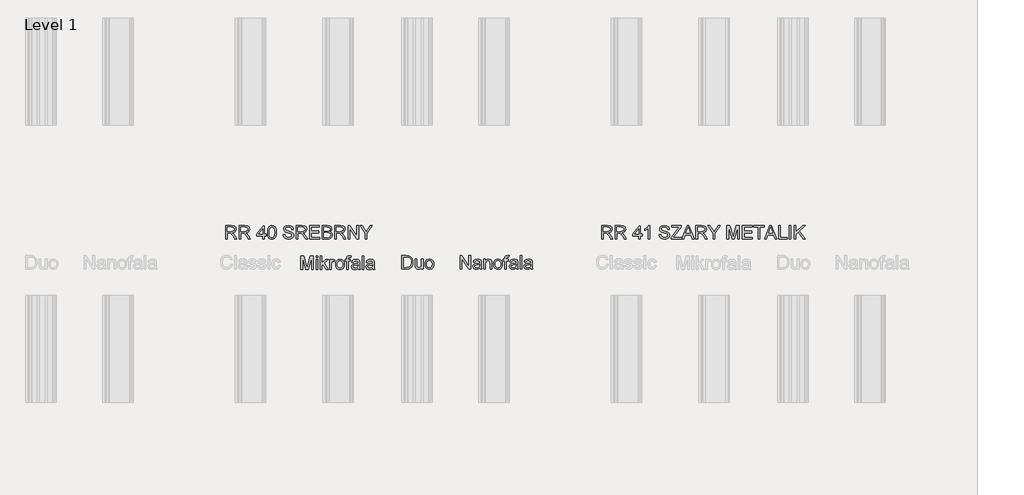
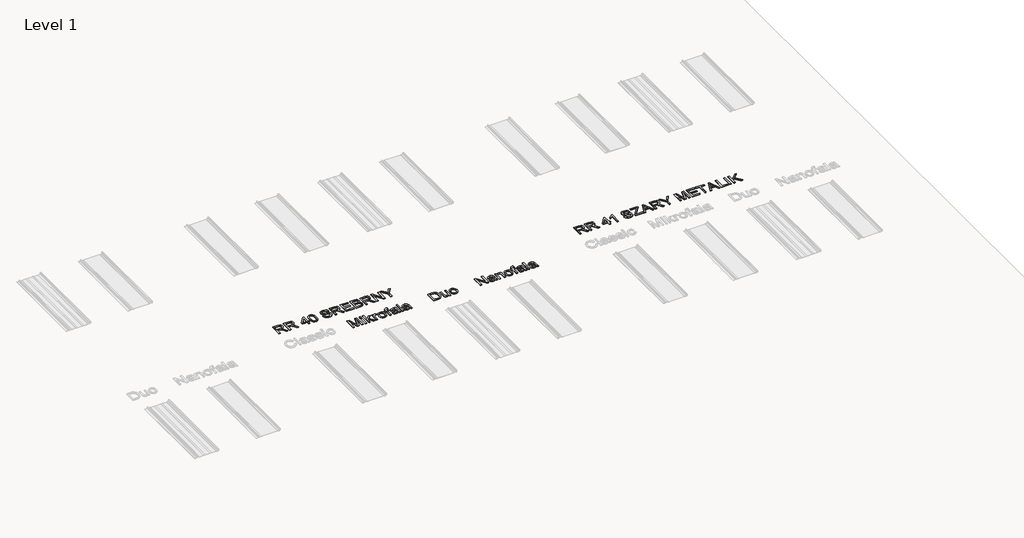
# One storey, part 17 of 24: 5 proxies.
"""IFC4 building model written with IfcOpenShell, lengths in millimetres."""

from ifc_helpers import new_model, si_unit, frame, origin, place, context, project, spatial, polyline, outline, extrude, element, save

model = new_model("IFC4")

# Units and contexts
model_context = context("Model", 3, world=origin())
ifc_project = project(units=[si_unit("LENGTHUNIT", "METRE", prefix="MILLI")], contexts=[model_context])

# Site, building, storey
site = spatial("IfcSite", under=ifc_project)
building = spatial("IfcBuilding", under=site)
storey = spatial("IfcBuildingStorey", under=building, Name="Level 1", Elevation=0.0)

# Proxies
placement = place(None, origin())
element("IfcBuildingElementProxy", 1, Name="150", ObjectType="150", at=placement, inside=storey, context=model_context, shape_type="SweptSolid", body=[
    extrude(outline(polyline([(504.3345041, -1975.281387), (504.3345041, -1824.5969218), (536.6345432, -1824.5969218), (567.5366308, -1930.8044538), (573.7906247, -1952.9877381), (580.5228653, -1928.9650438), (610.8363417, -1824.5969218), (643.2467454, -1824.5969218), (643.2467454, -1975.281387), (624.4111873, -1975.281387), (624.4111873, -1843.4324799), (586.55613, -1975.281387), (561.0619077, -1975.281387), (523.1700622, -1843.4324799), (523.1700622, -1975.281387), (504.3345041, -1975.281387)])), frame((0.0, 0.0, 600.0), z_axis=(0.0, 0.0, 1.0), x_axis=(1.0, 0.0, 0.0)), (0.0, 0.0, 1.0), 10.0),
    extrude(outline(polyline([(673.8545274, -1843.4324799), (673.8545274, -1824.5969218), (692.6900856, -1824.5969218), (692.6900856, -1843.4324799), (673.8545274, -1843.4324799)])), frame((0.0, 0.0, 600.0), z_axis=(0.0, 0.0, 1.0), x_axis=(1.0, 0.0, 0.0)), (0.0, 0.0, 1.0), 10.0),
    extrude(outline(polyline([(673.8545274, -1975.281387), (673.8545274, -1864.6224829), (692.6900856, -1864.6224829), (692.6900856, -1975.281387), (673.8545274, -1975.281387)])), frame((0.0, 0.0, 600.0), z_axis=(0.0, 0.0, 1.0), x_axis=(1.0, 0.0, 0.0)), (0.0, 0.0, 1.0), 10.0),
    extrude(outline(polyline([(720.9434228, -1975.281387), (720.9434228, -1824.5969218), (739.778981, -1824.5969218), (739.778981, -1905.5677489), (782.011834, -1864.6224829), (808.0578793, -1864.6224829), (765.2732032, -1906.0827837), (810.412324, -1975.281387), (788.4129807, -1975.281387), (751.771934, -1919.1793827), (739.778981, -1930.841242), (739.778981, -1975.281387), (720.9434228, -1975.281387)])), frame((0.0, 0.0, 600.0), z_axis=(0.0, 0.0, 1.0), x_axis=(1.0, 0.0, 0.0)), (0.0, 0.0, 1.0), 10.0),
    extrude(outline(polyline([(826.8934374, -1975.281387), (826.8934374, -1864.6224829), (843.3745508, -1864.6224829), (843.3745508, -1880.9932316), (855.0731983, -1865.9100698), (866.8454221, -1862.2680381), (885.7545567, -1868.0805736), (879.4637745, -1884.9663572), (866.2200227, -1881.1035962), (855.5698389, -1884.8192044), (848.7824161, -1895.1199003), (845.7289956, -1917.1192436), (845.7289956, -1975.281387), (826.8934374, -1975.281387)])), frame((0.0, 0.0, 600.0), z_axis=(0.0, 0.0, 1.0), x_axis=(1.0, 0.0, 0.0)), (0.0, 0.0, 1.0), 10.0),
    extrude(outline(polyline([(892.817891, -1919.9519349), (896.8921841, -1893.2712932), (909.1150633, -1874.5185085), (924.2166192, -1865.3306557), (942.2980193, -1862.2680381), (962.0854721, -1865.9974418), (977.8906023, -1877.185653), (988.251079, -1894.9497548), (991.7045713, -1918.4068306), (990.177861, -1937.4355268), (985.5977301, -1951.9208803), (978.097536, -1962.7688007), (967.8106357, -1970.8851972), (955.5923549, -1975.9481731), (942.2980193, -1977.6358318), (922.2714432, -1973.9202236), (906.4847071, -1962.7733992), (896.234595, -1944.6368168), (892.817891, -1919.9519349)]), holes=[polyline([(911.6534491, -1919.9151467), (913.8331499, -1936.9618787), (920.3722524, -1949.1065831), (930.2130958, -1956.376851), (942.2980193, -1958.8002736), (954.3277606, -1956.3630554), (964.1502098, -1949.0514008), (970.6893123, -1936.745748), (972.8690131, -1919.3265355), (970.6755167, -1902.7764443), (964.0950275, -1890.7972868), (954.2587827, -1883.5270189), (942.2980193, -1881.1035962), (930.2130958, -1883.5178218), (920.3722524, -1890.7604986), (913.8331499, -1902.8776118), (911.6534491, -1919.9151467)])]), frame((0.0, 0.0, 600.0), z_axis=(0.0, 0.0, 1.0), x_axis=(1.0, 0.0, 0.0)), (0.0, 0.0, 1.0), 10.0),
    extrude(outline(polyline([(1017.6034637, -1975.281387), (1017.6034637, -1883.458041), (1001.1223503, -1883.458041), (1001.1223503, -1864.6224829), (1017.6034637, -1864.6224829), (1017.6034637, -1853.4756584), (1019.5900265, -1837.7670972), (1029.2285348, -1826.5466964), (1048.2112457, -1822.242477), (1065.3913349, -1824.3026162), (1062.6322199, -1841.960952), (1051.7797011, -1841.0780352), (1039.9155067, -1844.2050321), (1036.4390219, -1855.8668914), (1036.4390219, -1864.6224829), (1057.6290248, -1864.6224829), (1057.6290248, -1883.458041), (1036.4390219, -1883.458041), (1036.4390219, -1975.281387), (1017.6034637, -1975.281387)])), frame((0.0, 0.0, 600.0), z_axis=(0.0, 0.0, 1.0), x_axis=(1.0, 0.0, 0.0)), (0.0, 0.0, 1.0), 10.0),
    extrude(outline(polyline([(1144.7434813, -1961.1547184), (1126.4781402, -1973.9202236), (1106.2998128, -1977.6358318), (1090.5590619, -1975.4009487), (1078.9477864, -1968.6962993), (1071.7878831, -1958.5151651), (1069.4012486, -1945.8508274), (1073.0064922, -1930.9516066), (1082.4794536, -1920.1358759), (1095.6680231, -1913.9554584), (1111.9651955, -1911.1227671), (1144.6331167, -1904.6480439), (1144.7434813, -1900.4541892), (1143.4466972, -1892.0480856), (1139.5563451, -1886.5482498), (1130.8559359, -1882.4647596), (1118.7342242, -1881.1035962), (1099.6779368, -1884.7272339), (1090.5912516, -1897.5847096), (1071.7556934, -1895.2302649), (1079.9042796, -1876.8361651), (1096.3118166, -1866.0572226), (1121.1622454, -1862.2680381), (1143.9893232, -1865.6157643), (1156.8835871, -1874.0218678), (1162.6593344, -1886.8057672), (1163.5790394, -1903.2868806), (1163.5790394, -1926.7209636), (1164.5355326, -1959.4440671), (1168.2879289, -1975.281387), (1149.4523708, -1975.281387), (1144.7434813, -1961.1547184)]), holes=[polyline([(1144.7434813, -1923.4836021), (1114.3564285, -1929.2593494), (1098.1512266, -1932.31277), (1090.8119808, -1937.2791769), (1088.2368068, -1944.5264522), (1093.8470072, -1954.7167835), (1110.3097265, -1958.8002736), (1129.3660139, -1954.2937192), (1141.6532725, -1943.386018), (1144.6331167, -1928.817891), (1144.7434813, -1923.4836021)])]), frame((0.0, 0.0, 600.0), z_axis=(0.0, 0.0, 1.0), x_axis=(1.0, 0.0, 0.0)), (0.0, 0.0, 1.0), 10.0),
    extrude(outline(polyline([(1189.4779319, -1975.281387), (1189.4779319, -1824.5969218), (1208.31349, -1824.5969218), (1208.31349, -1975.281387), (1189.4779319, -1975.281387)])), frame((0.0, 0.0, 600.0), z_axis=(0.0, 0.0, 1.0), x_axis=(1.0, 0.0, 0.0)), (0.0, 0.0, 1.0), 10.0),
    extrude(outline(polyline([(1307.2001703, -1961.1547184), (1288.9348293, -1973.9202236), (1268.7565018, -1977.6358318), (1253.015751, -1975.4009487), (1241.4044755, -1968.6962993), (1234.2445722, -1958.5151651), (1231.8579377, -1945.8508274), (1235.4631813, -1930.9516066), (1244.9361426, -1920.1358759), (1258.1247122, -1913.9554584), (1274.4218846, -1911.1227671), (1307.0898057, -1904.6480439), (1307.2001703, -1900.4541892), (1305.9033863, -1892.0480856), (1302.0130342, -1886.5482498), (1293.312625, -1882.4647596), (1281.1909133, -1881.1035962), (1262.1346259, -1884.7272339), (1253.0479406, -1897.5847096), (1234.2123825, -1895.2302649), (1242.3609687, -1876.8361651), (1258.7685057, -1866.0572226), (1283.6189344, -1862.2680381), (1306.4460122, -1865.6157643), (1319.3402762, -1874.0218678), (1325.1160235, -1886.8057672), (1326.0357285, -1903.2868806), (1326.0357285, -1926.7209636), (1326.9922217, -1959.4440671), (1330.744618, -1975.281387), (1311.9090599, -1975.281387), (1307.2001703, -1961.1547184)]), holes=[polyline([(1307.2001703, -1923.4836021), (1276.8131175, -1929.2593494), (1260.6079156, -1932.31277), (1253.2686698, -1937.2791769), (1250.6934959, -1944.5264522), (1256.3036963, -1954.7167835), (1272.7664156, -1958.8002736), (1291.8227029, -1954.2937192), (1304.1099616, -1943.386018), (1307.0898057, -1928.817891), (1307.2001703, -1923.4836021)])]), frame((0.0, 0.0, 600.0), z_axis=(0.0, 0.0, 1.0), x_axis=(1.0, 0.0, 0.0)), (0.0, 0.0, 1.0), 10.0),
])
element("IfcBuildingElementProxy", 2, Name="150", ObjectType="150", at=placement, inside=storey, context=model_context, shape_type="SweptSolid", body=[
    extrude(outline(polyline([(1632.4192925, -1972.1592468), (1632.4192925, -1821.4747816), (1684.4010184, -1821.4747816), (1711.2931923, -1823.6452853), (1733.4396884, -1834.4242278), (1743.8599459, -1845.902146), (1751.2819651, -1860.1759675), (1755.7241402, -1876.9697805), (1757.2048653, -1896.0076738), (1753.1949515, -1926.4131207), (1742.8942557, -1948.3572817), (1729.135469, -1962.0240978), (1711.1276454, -1969.5840728), (1686.902616, -1972.1592468), (1632.4192925, -1972.1592468)]), holes=[polyline([(1651.2548507, -1953.3236886), (1684.5849594, -1953.3236886), (1708.8283829, -1950.6013619), (1722.8078987, -1942.9126282), (1734.2674229, -1924.2058287), (1738.3693071, -1895.7133682), (1736.3597517, -1875.1855529), (1730.3310855, -1860.0288147), (1721.4237427, -1849.6177542), (1710.7781575, -1843.3269721), (1684.0699246, -1840.3103397), (1651.2548507, -1840.3103397), (1651.2548507, -1953.3236886)])]), frame((0.0, 0.0, 600.0), z_axis=(0.0, 0.0, 1.0), x_axis=(1.0, 0.0, 0.0)), (0.0, 0.0, 1.0), 10.0),
    extrude(outline(polyline([(1851.382656, -1972.1592468), (1851.382656, -1953.1397476), (1836.630588, -1969.1702056), (1817.3903597, -1974.5136916), (1799.6768416, -1970.7612952), (1787.4631594, -1961.3435161), (1781.8529589, -1947.4743649), (1780.749313, -1929.9631819), (1780.749313, -1861.5003426), (1799.5848711, -1861.5003426), (1799.5848711, -1921.0972259), (1800.7253053, -1940.300666), (1808.1749157, -1951.5762492), (1822.2096138, -1955.6781334), (1837.9365691, -1951.4842787), (1848.3292355, -1940.0615427), (1851.382656, -1919.0738749), (1851.382656, -1861.5003426), (1870.2182142, -1861.5003426), (1870.2182142, -1972.1592468), (1851.382656, -1972.1592468)])), frame((0.0, 0.0, 600.0), z_axis=(0.0, 0.0, 1.0), x_axis=(1.0, 0.0, 0.0)), (0.0, 0.0, 1.0), 10.0),
    extrude(outline(polyline([(1891.4082171, -1916.8297947), (1895.4825102, -1890.149153), (1907.7053895, -1871.3963683), (1922.8069454, -1862.2085155), (1940.8883455, -1859.1458979), (1960.6757983, -1862.8753016), (1976.4809285, -1874.0635128), (1986.8414052, -1891.8276146), (1990.2948974, -1915.2846903), (1988.7681871, -1934.3133865), (1984.1880563, -1948.7987401), (1976.6878621, -1959.6466604), (1966.4009618, -1967.7630569), (1954.1826811, -1972.8260329), (1940.8883455, -1974.5136916), (1920.8617693, -1970.7980834), (1905.0750332, -1959.651259), (1894.8249211, -1941.5146766), (1891.4082171, -1916.8297947)]), holes=[polyline([(1910.2437753, -1916.7930065), (1912.4234761, -1933.8397385), (1918.9625785, -1945.9844428), (1928.8034219, -1953.2547108), (1940.8883455, -1955.6781334), (1952.9180867, -1953.2409152), (1962.740536, -1945.9292605), (1969.2796384, -1933.6236078), (1971.4593393, -1916.2043953), (1969.2658429, -1899.6543041), (1962.6853537, -1887.6751466), (1952.8491088, -1880.4048787), (1940.8883455, -1877.981456), (1928.8034219, -1880.3956816), (1918.9625785, -1887.6383584), (1912.4234761, -1899.7554716), (1910.2437753, -1916.7930065)])]), frame((0.0, 0.0, 600.0), z_axis=(0.0, 0.0, 1.0), x_axis=(1.0, 0.0, 0.0)), (0.0, 0.0, 1.0), 10.0),
])
element("IfcBuildingElementProxy", 3, Name="150", ObjectType="150", at=placement, inside=storey, context=model_context, shape_type="SweptSolid", body=[
    extrude(outline(polyline([(2283.2193428, -1972.1592468), (2283.2193428, -1821.4747816), (2303.3792761, -1821.4747816), (2382.1060231, -1940.852489), (2382.1060231, -1821.4747816), (2400.9415812, -1821.4747816), (2400.9415812, -1972.1592468), (2380.7816479, -1972.1592468), (2302.0549009, -1852.7447512), (2302.0549009, -1972.1592468), (2283.2193428, -1972.1592468)])), frame((0.0, 0.0, 600.0), z_axis=(0.0, 0.0, 1.0), x_axis=(1.0, 0.0, 0.0)), (0.0, 0.0, 1.0), 10.0),
    extrude(outline(polyline([(2502.1827063, -1958.0325782), (2483.9173653, -1970.7980834), (2463.7390378, -1974.5136916), (2447.998287, -1972.2788084), (2436.3870115, -1965.5741591), (2429.2271081, -1955.3930249), (2426.8404737, -1942.7286872), (2430.4457173, -1927.8294664), (2439.9186786, -1917.0137357), (2453.1072482, -1910.8333182), (2469.4044205, -1908.0006268), (2502.0723417, -1901.5259037), (2502.1827063, -1897.332049), (2500.8859223, -1888.9259454), (2496.9955702, -1883.4261096), (2488.295161, -1879.3426194), (2476.1734493, -1877.981456), (2457.1171619, -1881.6050937), (2448.0304766, -1894.4625694), (2429.1949185, -1892.1081246), (2437.3435047, -1873.7140249), (2453.7510417, -1862.9350824), (2478.6014704, -1859.1458979), (2501.4285482, -1862.493624), (2514.3228122, -1870.8997276), (2520.0985595, -1883.683627), (2521.0182645, -1900.1647403), (2521.0182645, -1923.5988234), (2521.9747577, -1956.3219269), (2525.727154, -1972.1592468), (2506.8915959, -1972.1592468), (2502.1827063, -1958.0325782)]), holes=[polyline([(2502.1827063, -1920.3614619), (2471.7956535, -1926.1372092), (2455.5904516, -1929.1906298), (2448.2512058, -1934.1570367), (2445.6760319, -1941.404312), (2451.2862323, -1951.5946433), (2467.7489516, -1955.6781334), (2486.8052389, -1951.171579), (2499.0924976, -1940.2638778), (2502.0723417, -1925.6957508), (2502.1827063, -1920.3614619)])]), frame((0.0, 0.0, 600.0), z_axis=(0.0, 0.0, 1.0), x_axis=(1.0, 0.0, 0.0)), (0.0, 0.0, 1.0), 10.0),
    extrude(outline(polyline([(2546.9171569, -1972.1592468), (2546.9171569, -1861.5003426), (2565.7527151, -1861.5003426), (2565.7527151, -1876.9513864), (2580.1552952, -1863.59727), (2599.8185878, -1859.1458979), (2617.6056823, -1862.7327473), (2629.7457881, -1872.1505264), (2635.3927768, -1886.0012835), (2636.3860582, -1904.2114423), (2636.3860582, -1972.1592468), (2617.5505, -1972.1592468), (2617.5505, -1906.749828), (2615.3799962, -1890.0847737), (2607.7096566, -1881.2739999), (2594.7786045, -1877.981456), (2583.7467432, -1879.8300631), (2574.3427597, -1885.3758841), (2567.9002262, -1896.0904472), (2565.7527151, -1913.4452804), (2565.7527151, -1972.1592468), (2546.9171569, -1972.1592468)])), frame((0.0, 0.0, 600.0), z_axis=(0.0, 0.0, 1.0), x_axis=(1.0, 0.0, 0.0)), (0.0, 0.0, 1.0), 10.0),
    extrude(outline(polyline([(2657.5760611, -1916.8297947), (2661.6503542, -1890.149153), (2673.8732335, -1871.3963683), (2688.9747894, -1862.2085155), (2707.0561894, -1859.1458979), (2726.8436422, -1862.8753016), (2742.6487725, -1874.0635128), (2753.0092492, -1891.8276146), (2756.4627414, -1915.2846903), (2754.9360311, -1934.3133865), (2750.3559003, -1948.7987401), (2742.8557061, -1959.6466604), (2732.5688058, -1967.7630569), (2720.350525, -1972.8260329), (2707.0561894, -1974.5136916), (2687.0296133, -1970.7980834), (2671.2428772, -1959.651259), (2660.9927651, -1941.5146766), (2657.5760611, -1916.8297947)]), holes=[polyline([(2676.4116192, -1916.7930065), (2678.5913201, -1933.8397385), (2685.1304225, -1945.9844428), (2694.9712659, -1953.2547108), (2707.0561894, -1955.6781334), (2719.0859307, -1953.2409152), (2728.9083799, -1945.9292605), (2735.4474824, -1933.6236078), (2737.6271832, -1916.2043953), (2735.4336868, -1899.6543041), (2728.8531976, -1887.6751466), (2719.0169528, -1880.4048787), (2707.0561894, -1877.981456), (2694.9712659, -1880.3956816), (2685.1304225, -1887.6383584), (2678.5913201, -1899.7554716), (2676.4116192, -1916.7930065)])]), frame((0.0, 0.0, 600.0), z_axis=(0.0, 0.0, 1.0), x_axis=(1.0, 0.0, 0.0)), (0.0, 0.0, 1.0), 10.0),
    extrude(outline(polyline([(2782.3616338, -1972.1592468), (2782.3616338, -1880.3359008), (2765.8805205, -1880.3359008), (2765.8805205, -1861.5003426), (2782.3616338, -1861.5003426), (2782.3616338, -1850.3535182), (2784.3481966, -1834.644957), (2793.9867049, -1823.4245561), (2812.9694158, -1819.1203368), (2830.149505, -1821.180476), (2827.3903901, -1838.8388117), (2816.5378712, -1837.955895), (2804.6736769, -1841.0828919), (2801.197192, -1852.7447512), (2801.197192, -1861.5003426), (2822.3871949, -1861.5003426), (2822.3871949, -1880.3359008), (2801.197192, -1880.3359008), (2801.197192, -1972.1592468), (2782.3616338, -1972.1592468)])), frame((0.0, 0.0, 600.0), z_axis=(0.0, 0.0, 1.0), x_axis=(1.0, 0.0, 0.0)), (0.0, 0.0, 1.0), 10.0),
    extrude(outline(polyline([(2909.5016514, -1958.0325782), (2891.2363103, -1970.7980834), (2871.0579829, -1974.5136916), (2855.317232, -1972.2788084), (2843.7059565, -1965.5741591), (2836.5460532, -1955.3930249), (2834.1594188, -1942.7286872), (2837.7646623, -1927.8294664), (2847.2376237, -1917.0137357), (2860.4261932, -1910.8333182), (2876.7233656, -1908.0006268), (2909.3912868, -1901.5259037), (2909.5016514, -1897.332049), (2908.2048673, -1888.9259454), (2904.3145152, -1883.4261096), (2895.6141061, -1879.3426194), (2883.4923943, -1877.981456), (2864.436107, -1881.6050937), (2855.3494217, -1894.4625694), (2836.5138635, -1892.1081246), (2844.6624497, -1873.7140249), (2861.0699867, -1862.9350824), (2885.9204155, -1859.1458979), (2908.7474933, -1862.493624), (2921.6417572, -1870.8997276), (2927.4175045, -1883.683627), (2928.3372095, -1900.1647403), (2928.3372095, -1923.5988234), (2929.2937027, -1956.3219269), (2933.0460991, -1972.1592468), (2914.2105409, -1972.1592468), (2909.5016514, -1958.0325782)]), holes=[polyline([(2909.5016514, -1920.3614619), (2879.1145986, -1926.1372092), (2862.9093967, -1929.1906298), (2855.5701509, -1934.1570367), (2852.9949769, -1941.404312), (2858.6051773, -1951.5946433), (2875.0678966, -1955.6781334), (2894.124184, -1951.171579), (2906.4114426, -1940.2638778), (2909.3912868, -1925.6957508), (2909.5016514, -1920.3614619)])]), frame((0.0, 0.0, 600.0), z_axis=(0.0, 0.0, 1.0), x_axis=(1.0, 0.0, 0.0)), (0.0, 0.0, 1.0), 10.0),
    extrude(outline(polyline([(2954.236102, -1972.1592468), (2954.236102, -1821.4747816), (2973.0716601, -1821.4747816), (2973.0716601, -1972.1592468), (2954.236102, -1972.1592468)])), frame((0.0, 0.0, 600.0), z_axis=(0.0, 0.0, 1.0), x_axis=(1.0, 0.0, 0.0)), (0.0, 0.0, 1.0), 10.0),
    extrude(outline(polyline([(3071.9583404, -1958.0325782), (3053.6929994, -1970.7980834), (3033.514672, -1974.5136916), (3017.7739211, -1972.2788084), (3006.1626456, -1965.5741591), (2999.0027423, -1955.3930249), (2996.6161078, -1942.7286872), (3000.2213514, -1927.8294664), (3009.6943128, -1917.0137357), (3022.8828823, -1910.8333182), (3039.1800547, -1908.0006268), (3071.8479758, -1901.5259037), (3071.9583404, -1897.332049), (3070.6615564, -1888.9259454), (3066.7712043, -1883.4261096), (3058.0707951, -1879.3426194), (3045.9490834, -1877.981456), (3026.892796, -1881.6050937), (3017.8061108, -1894.4625694), (2998.9705526, -1892.1081246), (3007.1191388, -1873.7140249), (3023.5266758, -1862.9350824), (3048.3771046, -1859.1458979), (3071.2041824, -1862.493624), (3084.0984463, -1870.8997276), (3089.8741936, -1883.683627), (3090.7938986, -1900.1647403), (3090.7938986, -1923.5988234), (3091.7503918, -1956.3219269), (3095.5027881, -1972.1592468), (3076.66723, -1972.1592468), (3071.9583404, -1958.0325782)]), holes=[polyline([(3071.9583404, -1920.3614619), (3041.5712876, -1926.1372092), (3025.3660858, -1929.1906298), (3018.02684, -1934.1570367), (3015.451666, -1941.404312), (3021.0618664, -1951.5946433), (3037.5245857, -1955.6781334), (3056.580873, -1951.171579), (3068.8681317, -1940.2638778), (3071.8479758, -1925.6957508), (3071.9583404, -1920.3614619)])]), frame((0.0, 0.0, 600.0), z_axis=(0.0, 0.0, 1.0), x_axis=(1.0, 0.0, 0.0)), (0.0, 0.0, 1.0), 10.0),
])
element("IfcBuildingElementProxy", 4, Name="150 Blue", ObjectType="150 Blue", at=placement, inside=storey, context=model_context, shape_type="SweptSolid", body=[
    extrude(outline(polyline([(-336.4118342, -1635.6514112), (-336.4118342, -1484.966946), (-271.4806621, -1484.966946), (-241.3327325, -1489.032042), (-232.0529092, -1494.6606365), (-224.8516192, -1503.416228), (-220.2301016, -1514.2733454), (-218.6895957, -1526.2065176), (-221.2417771, -1541.0505561), (-228.8983211, -1553.3562089), (-241.8891541, -1562.3785148), (-260.4442022, -1567.3725129), (-249.7388361, -1575.4291286), (-234.4717333, -1594.8165097), (-209.3453931, -1635.6514112), (-231.2343718, -1635.6514112), (-250.8424821, -1604.4182298), (-265.0059389, -1583.7432617), (-274.9571469, -1573.9759947), (-283.9150735, -1570.3891452), (-294.8411687, -1569.7269577), (-317.576276, -1569.7269577), (-317.576276, -1635.6514112), (-336.4118342, -1635.6514112)]), holes=[polyline([(-317.576276, -1550.8913995), (-275.4169994, -1550.8913995), (-253.9142968, -1548.224255), (-241.7006145, -1539.6893927), (-237.5251539, -1526.9054934), (-239.5163152, -1517.7176406), (-245.4897991, -1510.3140154), (-255.7675023, -1505.4303819), (-270.6713217, -1503.8025041), (-317.576276, -1503.8025041), (-317.576276, -1550.8913995)])]), frame((0.0, 0.0, 600.0), z_axis=(0.0, 0.0, 1.0), x_axis=(1.0, 0.0, 0.0)), (0.0, 0.0, 1.0), 10.0),
    extrude(outline(polyline([(-185.727369, -1635.6514112), (-185.727369, -1484.966946), (-120.7961968, -1484.966946), (-90.6482673, -1489.032042), (-81.368444, -1494.6606365), (-74.1671539, -1503.416228), (-69.5456364, -1514.2733454), (-68.0051305, -1526.2065176), (-70.5573119, -1541.0505561), (-78.2138559, -1553.3562089), (-91.2046888, -1562.3785148), (-109.759737, -1567.3725129), (-99.0543709, -1575.4291286), (-83.7872681, -1594.8165097), (-58.6609278, -1635.6514112), (-80.5499066, -1635.6514112), (-100.1580169, -1604.4182298), (-114.3214737, -1583.7432617), (-124.2726817, -1573.9759947), (-133.2306083, -1570.3891452), (-144.1567035, -1569.7269577), (-166.8918108, -1569.7269577), (-166.8918108, -1635.6514112), (-185.727369, -1635.6514112)]), holes=[polyline([(-166.8918108, -1550.8913995), (-124.7325342, -1550.8913995), (-103.2298316, -1548.224255), (-91.0161493, -1539.6893927), (-86.8406887, -1526.9054934), (-88.83185, -1517.7176406), (-94.8053339, -1510.3140154), (-105.0830371, -1505.4303819), (-119.9868564, -1503.8025041), (-166.8918108, -1503.8025041), (-166.8918108, -1550.8913995)])]), frame((0.0, 0.0, 600.0), z_axis=(0.0, 0.0, 1.0), x_axis=(1.0, 0.0, 0.0)), (0.0, 0.0, 1.0), 10.0),
    extrude(outline(polyline([(77.9704452, -1635.6514112), (77.9704452, -1600.3347397), (9.6915469, -1600.3347397), (9.6915469, -1581.4991815), (82.6793347, -1487.3213907), (96.8060033, -1487.3213907), (96.8060033, -1581.4991815), (115.6415615, -1581.4991815), (115.6415615, -1600.3347397), (96.8060033, -1600.3347397), (96.8060033, -1635.6514112), (77.9704452, -1635.6514112)]), holes=[polyline([(77.9704452, -1581.4991815), (77.9704452, -1523.3002499), (32.8681126, -1581.4991815), (77.9704452, -1581.4991815)])]), frame((0.0, 0.0, 600.0), z_axis=(0.0, 0.0, 1.0), x_axis=(1.0, 0.0, 0.0)), (0.0, 0.0, 1.0), 10.0),
    extrude(outline(polyline([(132.1226749, -1561.5231892), (133.5068309, -1537.4039259), (137.6592989, -1518.168296), (144.5386922, -1503.5219941), (154.1036241, -1493.1707145), (166.4230724, -1487.0178881), (181.566015, -1484.966946), (203.5653583, -1489.8229883), (218.7588847, -1503.8208982), (227.5880526, -1526.1145471), (231.0093552, -1561.5231892), (229.6389947, -1585.5044967), (225.5279134, -1604.6941413), (218.6899068, -1619.3542388), (209.1387705, -1629.7469052), (196.7917311, -1635.9411183), (181.566015, -1638.005856), (161.9946929, -1634.4190065), (147.1322603, -1623.6584581), (135.8750712, -1598.1734329), (132.1226749, -1561.5231892)]), holes=[polyline([(150.958233, -1561.486401), (153.165525, -1591.1146971), (159.7874009, -1608.2625966), (169.6466384, -1616.4433725), (181.566015, -1619.1702978), (193.4853917, -1616.4341755), (203.3446291, -1608.2258084), (209.966505, -1591.0687119), (212.173797, -1561.486401), (210.0400814, -1532.5248909), (203.6389347, -1515.2436342), (193.7980913, -1506.6627866), (181.3452858, -1503.8025041), (169.5546679, -1506.3224958), (160.0817065, -1513.8824708), (153.2391014, -1532.2397823), (150.958233, -1561.486401)])]), frame((0.0, 0.0, 600.0), z_axis=(0.0, 0.0, 1.0), x_axis=(1.0, 0.0, 0.0)), (0.0, 0.0, 1.0), 10.0),
    extrude(outline(polyline([(306.3515878, -1583.8536263), (325.1871459, -1583.8536263), (331.2571988, -1602.7075785), (346.0828432, -1614.6269552), (368.6707978, -1619.1702978), (388.3524845, -1615.7306011), (401.0628074, -1606.2760339), (405.2382681, -1593.6392873), (402.1112711, -1581.8854576), (389.3089777, -1573.3322012), (361.8833749, -1566.1401082), (332.3608448, -1556.8510878), (316.3395839, -1542.8347838), (311.0604773, -1524.1095903), (312.6929537, -1513.0777289), (317.5903827, -1502.7908286), (325.6240058, -1494.0720253), (336.6650642, -1487.744455), (364.5873076, -1482.6125012), (394.3857492, -1487.9835783), (405.8084852, -1494.6146513), (414.251377, -1503.7657159), (419.5948629, -1514.8665551), (421.7193815, -1527.3469518), (402.8838233, -1527.3469518), (399.4257326, -1516.1081569), (392.2152454, -1507.9963589), (380.9488593, -1503.0851342), (365.3230716, -1501.4480593), (349.3294019, -1503.0667401), (338.3573214, -1507.9227825), (332.0113569, -1515.0688902), (329.8960355, -1523.5577673), (331.3951546, -1530.7958455), (335.892512, -1536.6175781), (366.6474468, -1547.1390031), (399.9775555, -1556.5935704), (410.7151113, -1563.4269785), (418.2061084, -1571.8606732), (422.6068968, -1581.8026841), (424.0738262, -1593.1610407), (422.3861676, -1604.7723162), (417.3231916, -1615.6938129), (409.091832, -1625.0931979), (397.8990223, -1632.1381381), (384.4391398, -1636.5389265), (369.4065617, -1638.005856), (350.9526812, -1636.4239634), (335.7637533, -1631.6782856), (323.6650342, -1623.7504286), (314.4817799, -1612.6219983), (308.5864709, -1599.0655468), (306.3515878, -1583.8536263)])), frame((0.0, 0.0, 600.0), z_axis=(0.0, 0.0, 1.0), x_axis=(1.0, 0.0, 0.0)), (0.0, 0.0, 1.0), 10.0),
    extrude(outline(polyline([(452.3271635, -1635.6514112), (452.3271635, -1484.966946), (517.2583356, -1484.966946), (547.4062651, -1489.032042), (556.6860884, -1494.6606365), (563.8873785, -1503.416228), (568.5088961, -1514.2733454), (570.0494019, -1526.2065176), (567.4972206, -1541.0505561), (559.8406765, -1553.3562089), (546.8498436, -1562.3785148), (528.2947955, -1567.3725129), (539.0001615, -1575.4291286), (554.2672643, -1594.8165097), (579.3936046, -1635.6514112), (557.5046259, -1635.6514112), (537.8965155, -1604.4182298), (523.7330587, -1583.7432617), (513.7818508, -1573.9759947), (504.8239242, -1570.3891452), (493.8978289, -1569.7269577), (471.1627216, -1569.7269577), (471.1627216, -1635.6514112), (452.3271635, -1635.6514112)]), holes=[polyline([(471.1627216, -1550.8913995), (513.3219983, -1550.8913995), (534.8247009, -1548.224255), (547.0383831, -1539.6893927), (551.2138438, -1526.9054934), (549.2226825, -1517.7176406), (543.2491986, -1510.3140154), (532.9714953, -1505.4303819), (518.067676, -1503.8025041), (471.1627216, -1503.8025041), (471.1627216, -1550.8913995)])]), frame((0.0, 0.0, 600.0), z_axis=(0.0, 0.0, 1.0), x_axis=(1.0, 0.0, 0.0)), (0.0, 0.0, 1.0), 10.0),
    extrude(outline(polyline([(603.0116287, -1635.6514112), (603.0116287, -1484.966946), (711.3160881, -1484.966946), (711.3160881, -1503.8025041), (621.8471868, -1503.8025041), (621.8471868, -1548.5369547), (706.6071985, -1548.5369547), (706.6071985, -1567.3725129), (621.8471868, -1567.3725129), (621.8471868, -1616.815853), (713.6705328, -1616.815853), (713.6705328, -1635.6514112), (603.0116287, -1635.6514112)])), frame((0.0, 0.0, 600.0), z_axis=(0.0, 0.0, 1.0), x_axis=(1.0, 0.0, 0.0)), (0.0, 0.0, 1.0), 10.0),
    extrude(outline(polyline([(741.9238701, -1635.6514112), (741.9238701, -1484.966946), (799.4238259, -1484.966946), (827.5851926, -1489.399924), (837.048957, -1495.02392), (844.2134588, -1503.0299519), (850.2283294, -1522.3069685), (845.169952, -1539.9101219), (829.8844551, -1553.2458443), (840.5576315, -1558.8192565), (848.4441018, -1567.2989365), (853.3139397, -1578.1238642), (854.937219, -1590.7330196), (850.5042409, -1610.9849234), (839.5229634, -1625.4058976), (823.1338205, -1633.0578431), (798.9823675, -1635.6514112), (741.9238701, -1635.6514112)]), holes=[polyline([(760.7594282, -1546.18251), (795.1563948, -1546.18251), (815.2427517, -1544.5638292), (827.3276752, -1537.5924654), (831.3927713, -1525.3236008), (827.6035867, -1513.0363422), (816.7510679, -1505.7706728), (792.5444326, -1503.8025041), (760.7594282, -1503.8025041), (760.7594282, -1546.18251)]), polyline([(760.7594282, -1616.815853), (799.3870377, -1616.815853), (813.3665535, -1616.080089), (825.1939597, -1611.9782048), (833.0298462, -1603.6088894), (836.1016608, -1590.9169606), (832.4964173, -1576.2752572), (820.8161639, -1567.5380598), (797.5476277, -1565.0180681), (760.7594282, -1565.0180681), (760.7594282, -1616.815853)])]), frame((0.0, 0.0, 600.0), z_axis=(0.0, 0.0, 1.0), x_axis=(1.0, 0.0, 0.0)), (0.0, 0.0, 1.0), 10.0),
    extrude(outline(polyline([(880.8361114, -1635.6514112), (880.8361114, -1484.966946), (945.7672836, -1484.966946), (975.9152131, -1489.032042), (985.1950364, -1494.6606365), (992.3963265, -1503.416228), (997.017844, -1514.2733454), (998.5583499, -1526.2065176), (996.0061686, -1541.0505561), (988.3496245, -1553.3562089), (975.3587916, -1562.3785148), (956.8037434, -1567.3725129), (967.5091095, -1575.4291286), (982.7762123, -1594.8165097), (1007.9025526, -1635.6514112), (986.0135739, -1635.6514112), (966.4054635, -1604.4182298), (952.2420067, -1583.7432617), (942.2907987, -1573.9759947), (933.3328722, -1570.3891452), (922.4067769, -1569.7269577), (899.6716696, -1569.7269577), (899.6716696, -1635.6514112), (880.8361114, -1635.6514112)]), holes=[polyline([(899.6716696, -1550.8913995), (941.8309462, -1550.8913995), (963.3336489, -1548.224255), (975.5473311, -1539.6893927), (979.7227917, -1526.9054934), (977.7316304, -1517.7176406), (971.7581465, -1510.3140154), (961.4804433, -1505.4303819), (946.576624, -1503.8025041), (899.6716696, -1503.8025041), (899.6716696, -1550.8913995)])]), frame((0.0, 0.0, 600.0), z_axis=(0.0, 0.0, 1.0), x_axis=(1.0, 0.0, 0.0)), (0.0, 0.0, 1.0), 10.0),
    extrude(outline(polyline([(1031.5205767, -1635.6514112), (1031.5205767, -1484.966946), (1051.68051, -1484.966946), (1130.407257, -1604.3446534), (1130.407257, -1484.966946), (1149.2428151, -1484.966946), (1149.2428151, -1635.6514112), (1129.0828818, -1635.6514112), (1050.3561348, -1516.2369156), (1050.3561348, -1635.6514112), (1031.5205767, -1635.6514112)])), frame((0.0, 0.0, 600.0), z_axis=(0.0, 0.0, 1.0), x_axis=(1.0, 0.0, 0.0)), (0.0, 0.0, 1.0), 10.0),
    extrude(outline(polyline([(1224.5850477, -1635.6514112), (1224.5850477, -1571.823885), (1165.7239285, -1484.966946), (1187.9072128, -1484.966946), (1219.3243352, -1531.3568656), (1235.4007784, -1555.048466), (1251.550798, -1529.6646084), (1280.0616526, -1484.966946), (1302.2817251, -1484.966946), (1243.4206059, -1571.823885), (1243.4206059, -1635.6514112), (1224.5850477, -1635.6514112)])), frame((0.0, 0.0, 600.0), z_axis=(0.0, 0.0, 1.0), x_axis=(1.0, 0.0, 0.0)), (0.0, 0.0, 1.0), 10.0),
])
element("IfcBuildingElementProxy", 5, Name="150 Blue", ObjectType="150 Blue", at=placement, inside=storey, context=model_context, shape_type="SweptSolid", body=[
    extrude(outline(polyline([(3863.5881658, -1635.6514112), (3863.5881658, -1484.966946), (3928.5193379, -1484.966946), (3958.6672675, -1489.032042), (3967.9470908, -1494.6606365), (3975.1483808, -1503.416228), (3979.7698984, -1514.2733454), (3981.3104043, -1526.2065176), (3978.7582229, -1541.0505561), (3971.1016789, -1553.3562089), (3958.1108459, -1562.3785148), (3939.5557978, -1567.3725129), (3950.2611639, -1575.4291286), (3965.5282667, -1594.8165097), (3990.6546069, -1635.6514112), (3968.7656282, -1635.6514112), (3949.1575179, -1604.4182298), (3934.9940611, -1583.7432617), (3925.0428531, -1573.9759947), (3916.0849265, -1570.3891452), (3905.1588313, -1569.7269577), (3882.423724, -1569.7269577), (3882.423724, -1635.6514112), (3863.5881658, -1635.6514112)]), holes=[polyline([(3882.423724, -1550.8913995), (3924.5830006, -1550.8913995), (3946.0857032, -1548.224255), (3958.2993855, -1539.6893927), (3962.4748461, -1526.9054934), (3960.4836848, -1517.7176406), (3954.5102009, -1510.3140154), (3944.2324977, -1505.4303819), (3929.3286783, -1503.8025041), (3882.423724, -1503.8025041), (3882.423724, -1550.8913995)])]), frame((0.0, 0.0, 600.0), z_axis=(0.0, 0.0, 1.0), x_axis=(1.0, 0.0, 0.0)), (0.0, 0.0, 1.0), 10.0),
    extrude(outline(polyline([(4014.272631, -1635.6514112), (4014.272631, -1484.966946), (4079.2038032, -1484.966946), (4109.3517327, -1489.032042), (4118.631556, -1494.6606365), (4125.8328461, -1503.416228), (4130.4543636, -1514.2733454), (4131.9948695, -1526.2065176), (4129.4426881, -1541.0505561), (4121.7861441, -1553.3562089), (4108.7953112, -1562.3785148), (4090.240263, -1567.3725129), (4100.9456291, -1575.4291286), (4116.2127319, -1594.8165097), (4141.3390722, -1635.6514112), (4119.4500934, -1635.6514112), (4099.8419831, -1604.4182298), (4085.6785263, -1583.7432617), (4075.7273183, -1573.9759947), (4066.7693917, -1570.3891452), (4055.8432965, -1569.7269577), (4033.1081892, -1569.7269577), (4033.1081892, -1635.6514112), (4014.272631, -1635.6514112)]), holes=[polyline([(4033.1081892, -1550.8913995), (4075.2674658, -1550.8913995), (4096.7701684, -1548.224255), (4108.9838507, -1539.6893927), (4113.1593113, -1526.9054934), (4111.16815, -1517.7176406), (4105.1946661, -1510.3140154), (4094.9169629, -1505.4303819), (4080.0131436, -1503.8025041), (4033.1081892, -1503.8025041), (4033.1081892, -1550.8913995)])]), frame((0.0, 0.0, 600.0), z_axis=(0.0, 0.0, 1.0), x_axis=(1.0, 0.0, 0.0)), (0.0, 0.0, 1.0), 10.0),
    extrude(outline(polyline([(4277.9704452, -1635.6514112), (4277.9704452, -1600.3347397), (4209.6915469, -1600.3347397), (4209.6915469, -1581.4991815), (4282.6793347, -1487.3213907), (4296.8060033, -1487.3213907), (4296.8060033, -1581.4991815), (4315.6415615, -1581.4991815), (4315.6415615, -1600.3347397), (4296.8060033, -1600.3347397), (4296.8060033, -1635.6514112), (4277.9704452, -1635.6514112)]), holes=[polyline([(4277.9704452, -1581.4991815), (4277.9704452, -1523.3002499), (4232.8681126, -1581.4991815), (4277.9704452, -1581.4991815)])]), frame((0.0, 0.0, 600.0), z_axis=(0.0, 0.0, 1.0), x_axis=(1.0, 0.0, 0.0)), (0.0, 0.0, 1.0), 10.0),
    extrude(outline(polyline([(4402.7560179, -1635.6514112), (4383.9204598, -1635.6514112), (4383.9204598, -1518.2234783), (4366.078183, -1530.9338013), (4346.2493435, -1540.4435508), (4346.2493435, -1522.6380623), (4373.8588872, -1505.0165147), (4390.6159121, -1484.966946), (4402.7560179, -1484.966946), (4402.7560179, -1635.6514112)])), frame((0.0, 0.0, 600.0), z_axis=(0.0, 0.0, 1.0), x_axis=(1.0, 0.0, 0.0)), (0.0, 0.0, 1.0), 10.0),
    extrude(outline(polyline([(4506.3515878, -1583.8536263), (4525.1871459, -1583.8536263), (4531.2571988, -1602.7075785), (4546.0828432, -1614.6269552), (4568.6707978, -1619.1702978), (4588.3524845, -1615.7306011), (4601.0628074, -1606.2760339), (4605.2382681, -1593.6392873), (4602.1112711, -1581.8854576), (4589.3089777, -1573.3322012), (4561.8833749, -1566.1401082), (4532.3608448, -1556.8510878), (4516.3395839, -1542.8347838), (4511.0604773, -1524.1095903), (4512.6929537, -1513.0777289), (4517.5903827, -1502.7908286), (4525.6240058, -1494.0720253), (4536.6650642, -1487.744455), (4564.5873076, -1482.6125012), (4594.3857492, -1487.9835783), (4605.8084852, -1494.6146513), (4614.251377, -1503.7657159), (4619.5948629, -1514.8665551), (4621.7193815, -1527.3469518), (4602.8838233, -1527.3469518), (4599.4257326, -1516.1081569), (4592.2152454, -1507.9963589), (4580.9488593, -1503.0851342), (4565.3230716, -1501.4480593), (4549.3294019, -1503.0667401), (4538.3573214, -1507.9227825), (4532.0113569, -1515.0688902), (4529.8960355, -1523.5577673), (4531.3951546, -1530.7958455), (4535.892512, -1536.6175781), (4566.6474468, -1547.1390031), (4599.9775555, -1556.5935704), (4610.7151113, -1563.4269785), (4618.2061084, -1571.8606732), (4622.6068968, -1581.8026841), (4624.0738262, -1593.1610407), (4622.3861676, -1604.7723162), (4617.3231916, -1615.6938129), (4609.091832, -1625.0931979), (4597.8990223, -1632.1381381), (4584.4391398, -1636.5389265), (4569.4065617, -1638.005856), (4550.9526812, -1636.4239634), (4535.7637533, -1631.6782856), (4523.6650342, -1623.7504286), (4514.4817799, -1612.6219983), (4508.5864709, -1599.0655468), (4506.3515878, -1583.8536263)])), frame((0.0, 0.0, 600.0), z_axis=(0.0, 0.0, 1.0), x_axis=(1.0, 0.0, 0.0)), (0.0, 0.0, 1.0), 10.0),
    extrude(outline(polyline([(4640.5549396, -1635.6514112), (4640.5549396, -1616.1168772), (4717.5894294, -1521.7183573), (4732.2311328, -1503.8025041), (4649.9727187, -1503.8025041), (4649.9727187, -1484.966946), (4755.9227333, -1484.966946), (4755.9227333, -1503.8025041), (4671.60418, -1607.1037684), (4663.6579289, -1616.815853), (4758.2771781, -1616.815853), (4758.2771781, -1635.6514112), (4640.5549396, -1635.6514112)])), frame((0.0, 0.0, 600.0), z_axis=(0.0, 0.0, 1.0), x_axis=(1.0, 0.0, 0.0)), (0.0, 0.0, 1.0), 10.0),
    extrude(outline(polyline([(4761.955998, -1635.6514112), (4822.1047042, -1484.966946), (4838.1443592, -1484.966946), (4898.2562772, -1635.6514112), (4878.3538613, -1635.6514112), (4861.1369839, -1588.5625158), (4799.0385031, -1588.5625158), (4781.8216258, -1635.6514112), (4761.955998, -1635.6514112)]), holes=[polyline([(4805.9546846, -1569.7269577), (4854.2575906, -1569.7269577), (4840.6459568, -1532.6812407), (4830.0877435, -1503.8025041), (4820.7067526, -1529.4438792), (4805.9546846, -1569.7269577)])]), frame((0.0, 0.0, 600.0), z_axis=(0.0, 0.0, 1.0), x_axis=(1.0, 0.0, 0.0)), (0.0, 0.0, 1.0), 10.0),
    extrude(outline(polyline([(4918.3794224, -1635.6514112), (4918.3794224, -1484.966946), (4983.3105945, -1484.966946), (5013.458524, -1489.032042), (5022.7383474, -1494.6606365), (5029.9396374, -1503.416228), (5034.561155, -1514.2733454), (5036.1016608, -1526.2065176), (5033.5494795, -1541.0505561), (5025.8929355, -1553.3562089), (5012.9021025, -1562.3785148), (4994.3470544, -1567.3725129), (5005.0524204, -1575.4291286), (5020.3195232, -1594.8165097), (5045.4458635, -1635.6514112), (5023.5568848, -1635.6514112), (5003.9487744, -1604.4182298), (4989.7853176, -1583.7432617), (4979.8341097, -1573.9759947), (4970.8761831, -1570.3891452), (4959.9500878, -1569.7269577), (4937.2149805, -1569.7269577), (4937.2149805, -1635.6514112), (4918.3794224, -1635.6514112)]), holes=[polyline([(4937.2149805, -1550.8913995), (4979.3742572, -1550.8913995), (5000.8769598, -1548.224255), (5013.090642, -1539.6893927), (5017.2661027, -1526.9054934), (5015.2749414, -1517.7176406), (5009.3014575, -1510.3140154), (4999.0237542, -1505.4303819), (4984.1199349, -1503.8025041), (4937.2149805, -1503.8025041), (4937.2149805, -1550.8913995)])]), frame((0.0, 0.0, 600.0), z_axis=(0.0, 0.0, 1.0), x_axis=(1.0, 0.0, 0.0)), (0.0, 0.0, 1.0), 10.0),
    extrude(outline(polyline([(5111.4438934, -1635.6514112), (5111.4438934, -1571.823885), (5052.5827742, -1484.966946), (5074.7660585, -1484.966946), (5106.1831809, -1531.3568656), (5122.2596241, -1555.048466), (5138.4096437, -1529.6646084), (5166.9204983, -1484.966946), (5189.1405708, -1484.966946), (5130.2794516, -1571.823885), (5130.2794516, -1635.6514112), (5111.4438934, -1635.6514112)])), frame((0.0, 0.0, 600.0), z_axis=(0.0, 0.0, 1.0), x_axis=(1.0, 0.0, 0.0)), (0.0, 0.0, 1.0), 10.0),
    extrude(outline(polyline([(5264.4828034, -1635.6514112), (5264.4828034, -1484.966946), (5296.7828426, -1484.966946), (5327.6849302, -1591.174478), (5333.9389241, -1613.3577623), (5340.6711646, -1589.335068), (5370.984641, -1484.966946), (5403.3950448, -1484.966946), (5403.3950448, -1635.6514112), (5384.5594867, -1635.6514112), (5384.5594867, -1503.8025041), (5346.7044294, -1635.6514112), (5321.2102071, -1635.6514112), (5283.3183616, -1503.8025041), (5283.3183616, -1635.6514112), (5264.4828034, -1635.6514112)])), frame((0.0, 0.0, 600.0), z_axis=(0.0, 0.0, 1.0), x_axis=(1.0, 0.0, 0.0)), (0.0, 0.0, 1.0), 10.0),
    extrude(outline(polyline([(5436.3572716, -1635.6514112), (5436.3572716, -1484.966946), (5544.661731, -1484.966946), (5544.661731, -1503.8025041), (5455.1928297, -1503.8025041), (5455.1928297, -1548.5369547), (5539.9528414, -1548.5369547), (5539.9528414, -1567.3725129), (5455.1928297, -1567.3725129), (5455.1928297, -1616.815853), (5547.0161757, -1616.815853), (5547.0161757, -1635.6514112), (5436.3572716, -1635.6514112)])), frame((0.0, 0.0, 600.0), z_axis=(0.0, 0.0, 1.0), x_axis=(1.0, 0.0, 0.0)), (0.0, 0.0, 1.0), 10.0),
    extrude(outline(polyline([(5612.9406293, -1635.6514112), (5612.9406293, -1503.8025041), (5563.4972891, -1503.8025041), (5563.4972891, -1484.966946), (5681.2195276, -1484.966946), (5681.2195276, -1503.8025041), (5631.7761874, -1503.8025041), (5631.7761874, -1635.6514112), (5612.9406293, -1635.6514112)])), frame((0.0, 0.0, 600.0), z_axis=(0.0, 0.0, 1.0), x_axis=(1.0, 0.0, 0.0)), (0.0, 0.0, 1.0), 10.0),
    extrude(outline(polyline([(5684.8983475, -1635.6514112), (5745.0470537, -1484.966946), (5761.0867087, -1484.966946), (5821.1986267, -1635.6514112), (5801.2962108, -1635.6514112), (5784.0793334, -1588.5625158), (5721.9808526, -1588.5625158), (5704.7639753, -1635.6514112), (5684.8983475, -1635.6514112)]), holes=[polyline([(5728.8970341, -1569.7269577), (5777.1999401, -1569.7269577), (5763.5883063, -1532.6812407), (5753.030093, -1503.8025041), (5743.6491021, -1529.4438792), (5728.8970341, -1569.7269577)])]), frame((0.0, 0.0, 600.0), z_axis=(0.0, 0.0, 1.0), x_axis=(1.0, 0.0, 0.0)), (0.0, 0.0, 1.0), 10.0),
    extrude(outline(polyline([(5841.3217719, -1635.6514112), (5841.3217719, -1484.966946), (5860.15733, -1484.966946), (5860.15733, -1616.815853), (5935.4995626, -1616.815853), (5935.4995626, -1635.6514112), (5841.3217719, -1635.6514112)])), frame((0.0, 0.0, 600.0), z_axis=(0.0, 0.0, 1.0), x_axis=(1.0, 0.0, 0.0)), (0.0, 0.0, 1.0), 10.0),
    extrude(outline(polyline([(5959.0440103, -1635.6514112), (5959.0440103, -1484.966946), (5977.8795685, -1484.966946), (5977.8795685, -1635.6514112), (5959.0440103, -1635.6514112)])), frame((0.0, 0.0, 600.0), z_axis=(0.0, 0.0, 1.0), x_axis=(1.0, 0.0, 0.0)), (0.0, 0.0, 1.0), 10.0),
    extrude(outline(polyline([(6015.5506848, -1635.6514112), (6015.5506848, -1484.966946), (6034.3862429, -1484.966946), (6034.3862429, -1558.727286), (6111.6414619, -1484.966946), (6137.9818128, -1484.966946), (6073.0874288, -1546.918274), (6140.3362575, -1635.6514112), (6117.3068446, -1635.6514112), (6059.7333124, -1559.646991), (6034.3862429, -1583.8536263), (6034.3862429, -1635.6514112), (6015.5506848, -1635.6514112)])), frame((0.0, 0.0, 600.0), z_axis=(0.0, 0.0, 1.0), x_axis=(1.0, 0.0, 0.0)), (0.0, 0.0, 1.0), 10.0),
])

save(model, "model.ifc")
